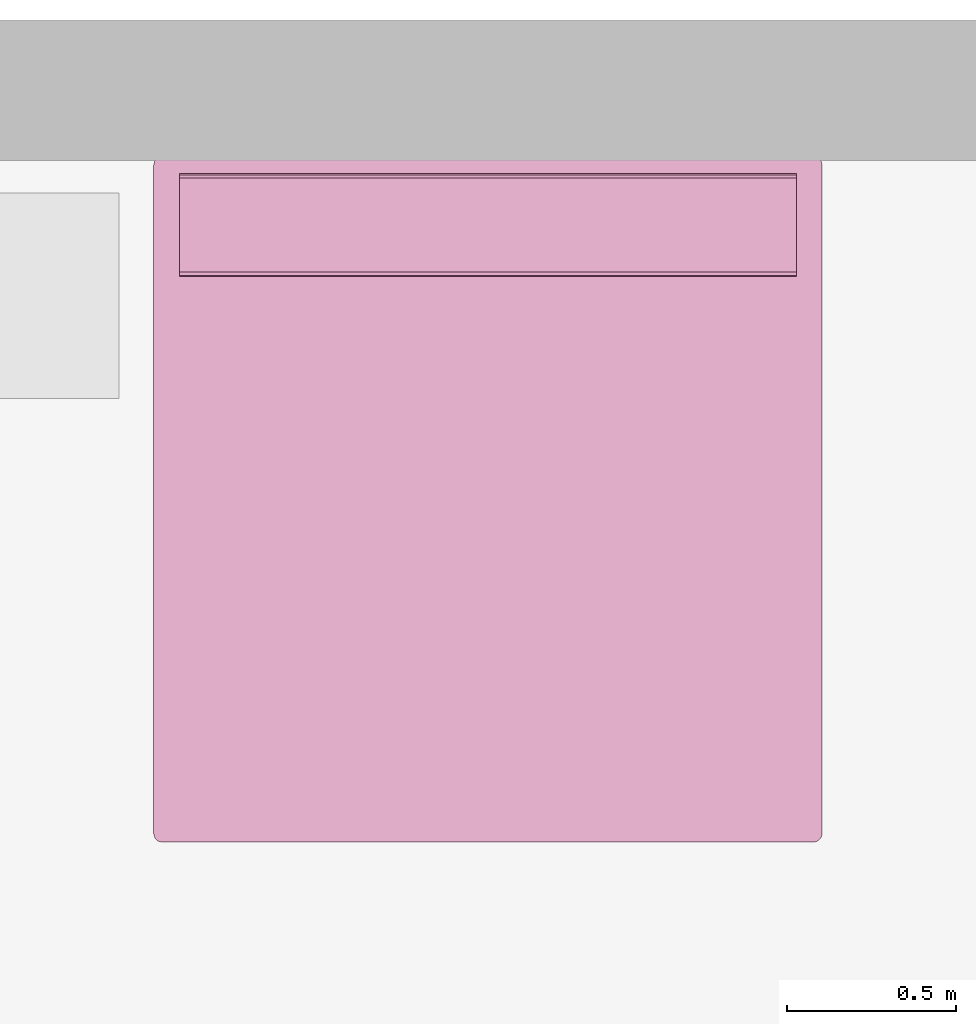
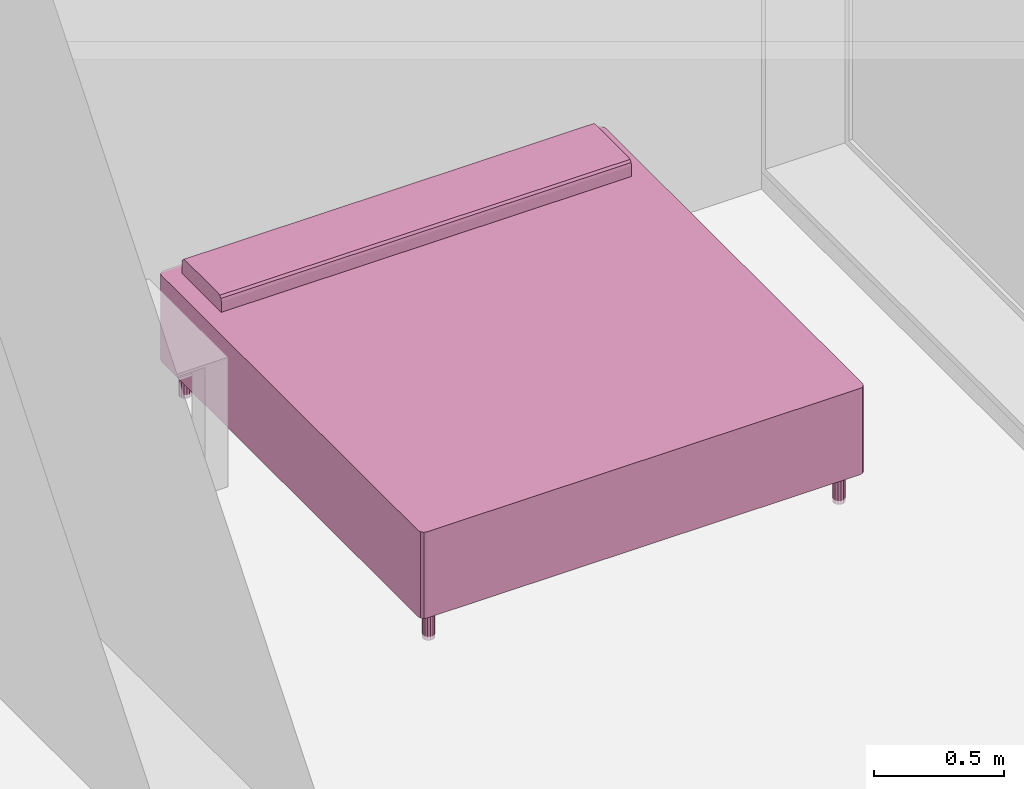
# One storey, part 13 of 16: 1 furnishing.
"""IFC4 building model written with IfcOpenShell, lengths in metres."""

import ifcopenshell
import ifcopenshell.guid

model = None  # the IFC model being written
_history = None  # IfcOwnerHistory: only IFC2X3 demands one
_inside = {}  # id of a spatial element -> (the spatial element, [elements in it])
_under = {}  # id of a project, library or spatial element -> (it, [spatial elements below it])
_declared = {}  # id of a project -> (the project, [libraries it declares])
_typed = {}  # id of a type object -> (the type object, [elements of that type])
_made_of = {}  # id of a material, layer set ... -> (it, [elements and type objects made of it])


def new_model(schema):
    """Start an empty IFC model of exactly this schema.

    Asked for "IFC4X3", IfcOpenShell would pick the latest addendum, in which some entities
    have other attributes; the version numbers below select the first issue.
    IFC2X3 requires an IfcOwnerHistory on every rooted entity: one is made here for all.
    """
    global model, _history
    if schema == "IFC4X3":
        model = ifcopenshell.file(schema_version=(4, 3, 0, 0))
    else:
        model = ifcopenshell.file(schema=schema)
    _inside.clear()
    _under.clear()
    _declared.clear()
    _typed.clear()
    _made_of.clear()
    _history = None
    if model.schema == "IFC2X3":
        org = make("IfcOrganization", Name="unknown")
        user = make(
            "IfcPersonAndOrganization",
            ThePerson=make("IfcPerson", FamilyName="unknown"),
            TheOrganization=org,
        )
        app = make(
            "IfcApplication",
            ApplicationDeveloper=org,
            Version="unknown",
            ApplicationFullName="unknown",
            ApplicationIdentifier="unknown",
        )
        _history = make(
            "IfcOwnerHistory",
            OwningUser=user,
            OwningApplication=app,
            ChangeAction="ADDED",
            CreationDate=0,
        )
    return model


def make(cls, **values):
    """One entity of the class cls with the attributes given. An attribute that is None is left unset."""
    return model.create_entity(
        cls, **{name: value for name, value in values.items() if value is not None}
    )


def entity(cls, *values):
    """Any entity or typed value of the class cls, its attributes in the order of the schema. None: left unset."""
    e = model.create_entity(cls)
    for i, value in enumerate(values):
        if value is not None:
            e[i] = value
    return e


def rooted(cls, **values):
    """An entity with a GlobalId (a new one), such as an element, a storey or a relation."""
    return make(cls, GlobalId=ifcopenshell.guid.new(), OwnerHistory=_history, **values)


def si_unit(unit_type, name, prefix=None):
    """IfcSIUnit, for example si_unit("LENGTHUNIT", "METRE", prefix="MILLI")."""
    return make("IfcSIUnit", UnitType=unit_type, Prefix=prefix, Name=name)


def converted_unit(unit_type, name, factor, base, dimensions=None, offset=None):
    """IfcConversionBasedUnit, such as the inch: factor (a typed value) times the base unit."""
    return make(
        "IfcConversionBasedUnit"
        if offset is None
        else "IfcConversionBasedUnitWithOffset",
        ConversionOffset=offset,
        Dimensions=None
        if dimensions is None
        else entity("IfcDimensionalExponents", *dimensions),
        UnitType=unit_type,
        Name=name,
        ConversionFactor=make(
            "IfcMeasureWithUnit", ValueComponent=factor, UnitComponent=base
        ),
    )


def assignment(units):
    """IfcUnitAssignment: the units of a project."""
    return None if units is None else make("IfcUnitAssignment", Units=units)


def point(xyz):
    """IfcCartesianPoint."""
    return None if xyz is None else make("IfcCartesianPoint", Coordinates=xyz)


def direction(xyz):
    """IfcDirection."""
    return None if xyz is None else make("IfcDirection", DirectionRatios=xyz)


def frame(location, z_axis=None, x_axis=None):
    """IfcAxis2Placement3D, a coordinate frame: its origin and axes. An axis left out is left unset."""
    return make(
        "IfcAxis2Placement3D",
        Location=point(location),
        Axis=direction(z_axis),
        RefDirection=direction(x_axis),
    )


def origin():
    """The frame at (0, 0, 0) with its axes left unset."""
    return frame((0.0, 0.0, 0.0))


def place(relative_to, where):
    """IfcLocalPlacement: puts the frame where relative to a parent placement (None: the world)."""
    return make(
        "IfcLocalPlacement", PlacementRelTo=relative_to, RelativePlacement=where
    )


def context(
    kind, dimensions, precision=None, world=None, true_north=None, identifier=None
):
    """IfcGeometricRepresentationContext, for example the 3D "Model" context."""
    return make(
        "IfcGeometricRepresentationContext",
        ContextIdentifier=identifier,
        ContextType=kind,
        CoordinateSpaceDimension=dimensions,
        Precision=precision,
        WorldCoordinateSystem=world,
        TrueNorth=true_north,
    )


def project(units=None, contexts=None):
    """IfcProject with its units and contexts."""
    return rooted(
        "IfcProject",
        Name="project",
        RepresentationContexts=contexts,
        UnitsInContext=assignment(units),
    )


def spatial(cls, under=None, at=None, **own):
    """A site, building, storey or space (cls), placed at a placement, below another one or the project."""
    s = rooted(cls, ObjectPlacement=at, **own)
    if under is not None:
        _under.setdefault(under.id(), (under, []))[1].append(s)
    return s


def faces_of(points, faces, orient=None, outer=None):
    """IfcFace entities. A face is a list of loops; a loop is a list of indices into points, from 0.

    orient and outer hold one flag for each loop. By default every Orientation is true, the
    first loop of a face is its IfcFaceOuterBound and the others are IfcFaceBound.
    """
    made = []
    for i, loops in enumerate(faces):
        bounds = []
        for j, loop in enumerate(loops):
            is_outer = j == 0 if outer is None else outer[i][j]
            bounds.append(
                make(
                    "IfcFaceOuterBound" if is_outer else "IfcFaceBound",
                    Bound=make("IfcPolyLoop", Polygon=[points[k] for k in loop]),
                    Orientation=True if orient is None else orient[i][j],
                )
            )
        made.append(make("IfcFace", Bounds=bounds))
    return made


def face_set(faces, orient=None, outer=None):
    """The faces of one IfcConnectedFaceSet. surface_model builds it on its shared points."""
    return ("IfcConnectedFaceSet", faces, orient, outer)


def surface_model(cls, points, shells):
    """IfcFaceBasedSurfaceModel or IfcShellBasedSurfaceModel (cls): surfaces that need not close."""
    shared = [point(p) for p in points]
    made = [make(c, CfsFaces=faces_of(shared, fs, o, b)) for c, fs, o, b in shells]
    if cls == "IfcFaceBasedSurfaceModel":
        return make(cls, FbsmFaces=made)
    return make(cls, SbsmBoundary=made)


def shape(context_of_items, identifier, shape_type, items):
    """IfcShapeRepresentation: the items that make up one representation, for example the "Body"."""
    return make(
        "IfcShapeRepresentation",
        ContextOfItems=context_of_items,
        RepresentationIdentifier=identifier,
        RepresentationType=shape_type,
        Items=items,
    )


def source(mapping_origin, context_of_items, identifier, shape_type, items):
    """IfcRepresentationMap: a shape defined once, which mapped items show again and again."""
    return make(
        "IfcRepresentationMap",
        MappingOrigin=mapping_origin,
        MappedRepresentation=shape(context_of_items, identifier, shape_type, items),
    )


def transform(
    local_origin,
    x_axis=None,
    y_axis=None,
    z_axis=None,
    scale=None,
    scale2=None,
    scale3=None,
    uniform=True,
):
    """IfcCartesianTransformationOperator3D, or its non-uniform kind. x_axis, y_axis, z_axis: its Axis1, 2, 3."""
    if uniform:
        return make(
            "IfcCartesianTransformationOperator3D",
            Axis1=direction(x_axis),
            Axis2=direction(y_axis),
            LocalOrigin=point(local_origin),
            Scale=scale,
            Axis3=direction(z_axis),
        )
    return make(
        "IfcCartesianTransformationOperator3DnonUniform",
        Axis1=direction(x_axis),
        Axis2=direction(y_axis),
        LocalOrigin=point(local_origin),
        Scale=scale,
        Axis3=direction(z_axis),
        Scale2=scale2,
        Scale3=scale3,
    )


def mapped(mapping_source, mapping_target):
    """IfcMappedItem: shows the shape of a source again, moved by a transform."""
    return make(
        "IfcMappedItem", MappingSource=mapping_source, MappingTarget=mapping_target
    )


def made_of(thing, what):
    """Note that an element or type object is made of a material, layer set ...; save() writes the relation."""
    if what is not None:
        _made_of.setdefault(what.id(), (what, []))[1].append(thing)
    return thing


def type_object(cls, material=None, **own):
    """A type object (cls), such as IfcWallType, which elements share."""
    return made_of(rooted(cls, **own), material)


def type_shapes(of_type, sources):
    """Give a type object the sources (RepresentationMaps) that its elements show as mapped items."""
    of_type.RepresentationMaps = sources


def element(
    cls,
    number,
    at=None,
    inside=None,
    cuts=None,
    type_object=None,
    material=None,
    context=None,
    identifier="Body",
    shape_type=None,
    held_by="IfcProductDefinitionShape",
    body=None,
    shapes=None,
    **own,
):
    """One element of the class cls, such as IfcWall. Its Tag is "e" and its number.

    at: its placement. inside: the storey or other place that contains it. cuts: it is an
    opening in that element (IfcRelVoidsElement). A single representation is given by context,
    identifier, shape_type and body (its items); several are given by shapes. held_by: the class
    of the entity that holds the representations. save() writes the other relations.
    """
    e = rooted(cls, Tag="e%d" % number, ObjectPlacement=at, **own)
    if body is not None:
        shapes = [shape(context, identifier, shape_type, body)]
    if shapes is not None:
        e.Representation = make(held_by, Representations=shapes)
    if inside is not None:
        _inside.setdefault(inside.id(), (inside, []))[1].append(e)
    if cuts is not None:
        rooted(
            "IfcRelVoidsElement", RelatingBuildingElement=cuts, RelatedOpeningElement=e
        )
    if type_object is not None:
        _typed.setdefault(type_object.id(), (type_object, []))[1].append(e)
    return made_of(e, material)


def aggregate(whole, parts):
    """IfcRelAggregates: a whole, such as a stair, and the parts it consists of."""
    return rooted("IfcRelAggregates", RelatingObject=whole, RelatedObjects=parts)


def save(model, path):
    """Write the relations noted so far, then the file.

    IfcRelAggregates (storeys below a building ...), IfcRelContainedInSpatialStructure (elements
    in a storey), IfcRelDefinesByType, IfcRelAssociatesMaterial and IfcRelDeclares: one each for
    every whole, place, type object, material and project.
    """
    for whole, parts in _under.values():
        aggregate(whole, parts)
    for where, things in _inside.values():
        rooted(
            "IfcRelContainedInSpatialStructure",
            RelatedElements=things,
            RelatingStructure=where,
        )
    for kind, things in _typed.values():
        rooted("IfcRelDefinesByType", RelatedObjects=things, RelatingType=kind)
    for what, things in _made_of.values():
        rooted("IfcRelAssociatesMaterial", RelatedObjects=things, RelatingMaterial=what)
    for by, libraries in _declared.values():
        rooted("IfcRelDeclares", RelatingContext=by, RelatedDefinitions=libraries)
    model.write(path)


model = new_model("IFC4")

# Units and contexts
model_context = context("Model", 3, precision=1e-09, world=origin())
plan_context = context("Plan", 3, precision=1e-09, world=origin())
ifc_project = project(units=[si_unit("LENGTHUNIT", "METRE"), si_unit("AREAUNIT", "SQUARE_METRE"), si_unit("VOLUMEUNIT", "CUBIC_METRE"), converted_unit("PLANEANGLEUNIT", "DEGREE", entity("IfcRatioMeasure", 0.01745329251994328), si_unit("PLANEANGLEUNIT", "RADIAN"), dimensions=[0, 0, 0, 0, 0, 0, 0]), si_unit("TIMEUNIT", "SECOND")], contexts=[model_context, plan_context])

# Site, building, storey, space
site_placement = place(None, origin())
site = spatial("IfcSite", under=ifc_project, at=site_placement, Name="Default", CompositionType="ELEMENT")
building_placement = place(site_placement, origin())
building = spatial("IfcBuilding", under=site, at=building_placement, CompositionType="ELEMENT")
storey_placement = place(building_placement, frame((0.0, 0.0, 3.100000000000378)))
storey = spatial("IfcBuildingStorey", under=building, at=storey_placement, Name="Level 2", CompositionType="ELEMENT", Elevation=3.100000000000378)
space_placement = place(storey_placement, origin())
space = spatial("IfcSpace", under=storey, at=space_placement, Name="A202", CompositionType="ELEMENT", PredefinedType="SPACE")

# Furnishing
furniture_type = type_object("IfcFurnitureType", Name="1981 x 2032mm - King", AssemblyPlace="NOTDEFINED")
shared_shape = source(origin(), model_context, "Body", "SurfaceModel", [
    surface_model("IfcFaceBasedSurfaceModel", [(0.001595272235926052, 0.02699527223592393, 0.3556), (0.001595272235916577, 2.008195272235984, 0.3556), (0.004998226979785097, 2.020895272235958, 0.3556), (0.01429527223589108, 2.030192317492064, 0.3556), (0.02699527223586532, 2.033595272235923, 0.3556), (1.957195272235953, 2.033595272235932, 0.3556), (1.969895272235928, 2.030192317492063, 0.3556), (1.979192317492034, 2.020895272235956, 0.3556), (1.982595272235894, 2.008195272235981, 0.3556), (1.982595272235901, 0.02699527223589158, 0.3556), (1.979192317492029, 0.01429527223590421, 0.3556), (1.969895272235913, 0.004998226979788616, 0.3556), (1.957195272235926, 0.001595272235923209, 0.3556), (0.02699527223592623, 0.00159527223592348, 0.3556), (0.01429527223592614, 0.004998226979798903, 0.3556), (0.00499822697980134, 0.01429527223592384, 0.3556), (0.001595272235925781, 0.02699527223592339, 0.1524), (0.001595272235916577, 2.008195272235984, 0.1524), (0.004998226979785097, 2.020895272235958, 0.1524), (0.01429527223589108, 2.030192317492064, 0.1524), (0.02699527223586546, 2.033595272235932, 0.1524), (1.957195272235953, 2.033595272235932, 0.1524), (1.969895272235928, 2.030192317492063, 0.1524), (1.979192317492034, 2.020895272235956, 0.1524), (1.982595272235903, 2.008195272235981, 0.1524), (1.982595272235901, 0.02699527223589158, 0.1524), (1.979192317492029, 0.01429527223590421, 0.1524), (1.969895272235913, 0.004998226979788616, 0.1524), (1.957195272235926, 0.001595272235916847, 0.1524), (0.02699527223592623, 0.00159527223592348, 0.1524), (0.01429527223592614, 0.004998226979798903, 0.1524), (0.00499822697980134, 0.01429527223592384, 0.1524), (0.003559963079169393, 0.01966291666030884, 0.1524000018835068), (0.003296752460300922, 0.02064526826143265, 0.3555999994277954), (0.009646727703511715, 0.009646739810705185, 0.3555999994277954), (0.009646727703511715, 0.009646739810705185, 0.1524000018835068), (0.02064525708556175, 0.003296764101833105, 0.1524000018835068), (0.01966290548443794, 0.003559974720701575, 0.3555999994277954), (1.964527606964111, 0.003559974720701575, 0.1524000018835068), (1.963545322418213, 0.003296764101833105, 0.3555999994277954), (1.974543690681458, 0.009646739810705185, 0.3555999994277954), (1.974543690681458, 0.009646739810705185, 0.1524000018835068), (1.980893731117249, 0.02064526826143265, 0.1524000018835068), (1.98063051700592, 0.01966291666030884, 0.3555999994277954), (1.980893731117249, 2.014545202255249, 0.3555999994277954), (1.980893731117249, 2.014545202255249, 0.1524000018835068), (1.974543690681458, 2.025543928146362, 0.3555999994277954), (1.974543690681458, 2.025543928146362, 0.1524000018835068), (1.963545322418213, 2.031893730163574, 0.1524000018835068), (1.964527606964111, 2.031630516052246, 0.3555999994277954), (0.01966290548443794, 2.031630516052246, 0.1524000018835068), (0.02064525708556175, 2.031893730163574, 0.3555999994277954), (0.009646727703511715, 2.025543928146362, 0.3555999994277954), (0.009646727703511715, 2.025543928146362, 0.1524000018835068), (0.003296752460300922, 2.014545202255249, 0.1524000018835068), (0.003559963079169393, 2.015527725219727, 0.3555999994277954), (0.07779527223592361, 1.677995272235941, 0.5588000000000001), (0.07779527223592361, 1.677995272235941, 0.6096), (0.07779527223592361, 1.681398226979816, 0.6223), (0.07779527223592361, 1.690695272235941, 0.6315970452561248), (0.07779527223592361, 1.703395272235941, 0.6349999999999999), (0.07779527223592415, 1.957395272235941, 0.6349999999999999), (0.07779527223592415, 1.970095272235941, 0.6315970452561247), (0.07779527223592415, 1.979392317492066, 0.6222999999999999), (0.07779527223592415, 1.982795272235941, 0.6095999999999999), (0.07779527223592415, 1.982795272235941, 0.5588000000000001), (1.906395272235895, 1.677995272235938, 0.5588000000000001), (1.906395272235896, 1.982795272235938, 0.5588000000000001), (1.906395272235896, 1.982795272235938, 0.6095999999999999), (1.906395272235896, 1.979392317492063, 0.6222999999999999), (1.906395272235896, 1.970095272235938, 0.6315970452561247), (1.906395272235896, 1.957395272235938, 0.6349999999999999), (1.906395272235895, 1.703395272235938, 0.6349999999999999), (1.906395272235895, 1.690695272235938, 0.6315970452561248), (1.906395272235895, 1.681398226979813, 0.6223), (1.906395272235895, 1.677995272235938, 0.6096), (0.07779525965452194, 1.679741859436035, 0.6161183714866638), (1.906395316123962, 1.679696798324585, 0.6159499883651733), (0.07779525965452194, 1.686046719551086, 0.6269484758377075), (1.906395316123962, 1.686046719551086, 0.6269484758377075), (1.906395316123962, 1.69704532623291, 0.6332985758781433), (0.07779525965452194, 1.696876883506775, 0.6332534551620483), (1.906395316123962, 1.963913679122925, 0.6332534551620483), (0.07779525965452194, 1.96374523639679, 0.6332985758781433), (0.07779525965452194, 1.974743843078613, 0.6269484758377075), (1.906395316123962, 1.974743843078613, 0.6269484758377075), (1.906395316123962, 1.981093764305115, 0.6159499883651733), (0.07779525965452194, 1.981048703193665, 0.6161183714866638), (0.1031952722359, 1.957395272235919, 0.1524), (0.1006798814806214, 1.946374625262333, 0.1524), (0.09363191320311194, 1.937536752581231, 0.1524), (0.08344730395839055, 1.932632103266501, 0.1524), (0.07214324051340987, 1.932632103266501, 0.1524), (0.06195863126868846, 1.937536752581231, 0.1524), (0.05491066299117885, 1.946374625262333, 0.1524), (0.05239527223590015, 1.957395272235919, 0.1524), (0.05491066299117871, 1.968415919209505, 0.1524), (0.06195863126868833, 1.977253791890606, 0.1524), (0.07214324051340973, 1.982158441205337, 0.1524), (0.08344730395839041, 1.982158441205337, 0.1524), (0.0936319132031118, 1.977253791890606, 0.1524), (0.1006798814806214, 1.968415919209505, 0.1524), (1.931795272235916, 1.957395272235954, 0.1524), (1.929279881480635, 1.946374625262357, 0.1524), (1.922231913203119, 1.937536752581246, 0.1524), (1.912047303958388, 1.932632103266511, 0.1524), (1.900743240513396, 1.932632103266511, 0.1524), (1.890558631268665, 1.937536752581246, 0.1524), (1.883510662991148, 1.946374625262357, 0.1524), (1.880995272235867, 1.957395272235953, 0.1524), (1.883510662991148, 1.96841591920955, 0.1524), (1.890558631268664, 1.97725379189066, 0.1524), (1.900743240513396, 1.982158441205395, 0.1524), (1.912047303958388, 1.982158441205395, 0.1524), (1.922231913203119, 1.97725379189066, 0.1524), (1.929279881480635, 1.96841591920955, 0.1524), (1.931795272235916, 0.0777952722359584, 0.1524), (1.929279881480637, 0.06677462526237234, 0.1524), (1.922231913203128, 0.0579367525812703, 0.1524), (1.912047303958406, 0.05303210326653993, 0.1524), (1.900743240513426, 0.05303210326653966, 0.1524), (1.890558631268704, 0.0579367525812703, 0.1524), (1.883510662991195, 0.06677462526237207, 0.1524), (1.880995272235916, 0.07779527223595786, 0.1524), (1.883510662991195, 0.08881591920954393, 0.1524), (1.890558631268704, 0.09765379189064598, 0.1524), (1.900743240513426, 0.1025584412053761, 0.1524), (1.912047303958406, 0.1025584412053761, 0.1524), (1.922231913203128, 0.09765379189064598, 0.1524), (1.929279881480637, 0.08881591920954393, 0.1524), (0.1031952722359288, 0.0777952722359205, 0.1524), (0.10067988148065, 0.06677462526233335, 0.1524), (0.09363191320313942, 0.05793675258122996, 0.1524), (0.08344730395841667, 0.05303210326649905, 0.1524), (0.07214324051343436, 0.05303210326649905, 0.1524), (0.06195863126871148, 0.05793675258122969, 0.1524), (0.05491066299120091, 0.06677462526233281, 0.1524), (0.05239527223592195, 0.0777952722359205, 0.1524), (0.05491066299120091, 0.08881591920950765, 0.1524), (0.06195863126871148, 0.09765379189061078, 0.1524), (0.07214324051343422, 0.102558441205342, 0.1524), (0.08344730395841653, 0.102558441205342, 0.1524), (0.09363191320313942, 0.09765379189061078, 0.1524), (0.1006798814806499, 0.08881591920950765, 0.1524), (0.1031952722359, 1.957395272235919, 0.0), (0.1006798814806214, 1.946374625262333, 0.0), (0.09363191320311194, 1.937536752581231, 0.0), (0.08344730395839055, 1.932632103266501, 0.0), (0.07214324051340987, 1.932632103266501, 0.0), (0.06195863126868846, 1.937536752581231, 0.0), (0.05491066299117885, 1.946374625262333, 0.0), (0.05239527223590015, 1.957395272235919, 0.0), (0.05491066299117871, 1.968415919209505, 0.0), (0.06195863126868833, 1.977253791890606, 0.0), (0.07214324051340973, 1.982158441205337, 0.0), (0.08344730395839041, 1.982158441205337, 0.0), (0.0936319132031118, 1.977253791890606, 0.0), (0.1006798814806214, 1.968415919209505, 0.0), (1.931795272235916, 1.957395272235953, 0.0), (1.929279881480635, 1.946374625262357, 0.0), (1.922231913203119, 1.937536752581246, 0.0), (1.912047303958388, 1.932632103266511, 0.0), (1.900743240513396, 1.932632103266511, 0.0), (1.890558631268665, 1.937536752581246, 0.0), (1.883510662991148, 1.946374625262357, 0.0), (1.880995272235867, 1.957395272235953, 0.0), (1.883510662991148, 1.96841591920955, 0.0), (1.890558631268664, 1.97725379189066, 0.0), (1.900743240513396, 1.982158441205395, 0.0), (1.912047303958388, 1.982158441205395, 0.0), (1.922231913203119, 1.97725379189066, 0.0), (1.929279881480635, 1.96841591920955, 0.0), (1.931795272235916, 0.07779527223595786, 0.0), (1.929279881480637, 0.06677462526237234, 0.0), (1.922231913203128, 0.0579367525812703, 0.0), (1.912047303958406, 0.05303210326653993, 0.0), (1.900743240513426, 0.05303210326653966, 0.0), (1.890558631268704, 0.0579367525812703, 0.0), (1.883510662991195, 0.06677462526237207, 0.0), (1.880995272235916, 0.07779527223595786, 0.0), (1.883510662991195, 0.08881591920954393, 0.0), (1.890558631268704, 0.09765379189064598, 0.0), (1.900743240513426, 0.1025584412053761, 0.0), (1.912047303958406, 0.1025584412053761, 0.0), (1.922231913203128, 0.09765379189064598, 0.0), (1.929279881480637, 0.08881591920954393, 0.0), (0.1031952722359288, 0.07779527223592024, 0.0), (0.10067988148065, 0.06677462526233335, 0.0), (0.09363191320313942, 0.05793675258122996, 0.0), (0.08344730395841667, 0.05303210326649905, 0.0), (0.07214324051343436, 0.05303210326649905, 0.0), (0.06195863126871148, 0.05793675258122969, 0.0), (0.05491066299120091, 0.06677462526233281, 0.0), (0.05239527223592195, 0.0777952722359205, 0.0), (0.05491066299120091, 0.08881591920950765, 0.0), (0.06195863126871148, 0.09765379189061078, 0.0), (0.07214324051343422, 0.102558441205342, 0.0), (0.08344730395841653, 0.102558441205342, 0.0), (0.09363191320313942, 0.09765379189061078, 0.0), (0.1006798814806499, 0.08881591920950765, 0.0), (0.05365297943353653, 1.951884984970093, 0.1524000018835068), (0.05843466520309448, 1.94195568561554, 0.0), (0.05843466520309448, 1.94195568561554, 0.1524000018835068), (0.1020657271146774, 1.952446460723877, 0.1524000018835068), (0.1019376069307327, 1.951884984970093, 0.0), (0.06705092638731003, 1.935084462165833, 0.0), (0.06705092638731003, 1.935084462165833, 0.1524000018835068), (0.05352479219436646, 1.952446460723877, 0.0), (0.07779525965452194, 1.932632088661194, 0.1524000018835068), (0.07779525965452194, 1.932632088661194, 0.0), (0.08853958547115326, 1.935084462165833, 0.0), (0.08853958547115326, 1.935084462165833, 0.1524000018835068), (0.09715592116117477, 1.94195568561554, 0.0), (0.09715592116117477, 1.94195568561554, 0.1524000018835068), (0.1020657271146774, 1.962344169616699, 0.0), (0.1019376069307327, 1.962905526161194, 0.1524000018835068), (0.09715592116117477, 1.972834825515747, 0.0), (0.09715592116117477, 1.972834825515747, 0.1524000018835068), (0.08853958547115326, 1.979706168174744, 0.1524000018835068), (0.08853958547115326, 1.979706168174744, 0.0), (0.07779525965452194, 1.982158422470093, 0.1524000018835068), (0.07779525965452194, 1.982158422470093, 0.0), (0.06705092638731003, 1.979706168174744, 0.1524000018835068), (0.06705092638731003, 1.979706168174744, 0.0), (0.05352479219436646, 1.962344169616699, 0.1524000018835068), (0.05843466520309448, 1.972834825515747, 0.1524000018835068), (0.05843466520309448, 1.972834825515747, 0.0), (0.05365297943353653, 1.962905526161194, 0.0), (1.882253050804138, 1.951884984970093, 0.1524000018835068), (1.88703465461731, 1.94195568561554, 0.1524000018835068), (1.88703465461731, 1.94195568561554, 0.0), (1.930537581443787, 1.951884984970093, 0.0), (1.930665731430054, 1.952446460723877, 0.1524000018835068), (1.895650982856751, 1.935084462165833, 0.0), (1.895650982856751, 1.935084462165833, 0.1524000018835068), (1.882124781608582, 1.952446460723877, 0.0), (1.906395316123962, 1.932632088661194, 0.1524000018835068), (1.906395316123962, 1.932632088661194, 0.0), (1.917139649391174, 1.935084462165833, 0.0), (1.917139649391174, 1.935084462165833, 0.1524000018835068), (1.925755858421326, 1.94195568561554, 0.0), (1.925755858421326, 1.94195568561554, 0.1524000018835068), (1.930665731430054, 1.962344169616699, 0.0), (1.930537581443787, 1.962905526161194, 0.1524000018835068), (1.925755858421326, 1.972834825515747, 0.1524000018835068), (1.925755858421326, 1.972834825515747, 0.0), (1.917139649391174, 1.979706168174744, 0.1524000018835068), (1.917139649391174, 1.979706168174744, 0.0), (1.906395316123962, 1.982158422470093, 0.1524000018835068), (1.906395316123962, 1.982158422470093, 0.0), (1.895650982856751, 1.979706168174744, 0.1524000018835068), (1.895650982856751, 1.979706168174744, 0.0), (1.882124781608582, 1.962344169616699, 0.1524000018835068), (1.88703465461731, 1.972834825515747, 0.0), (1.88703465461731, 1.972834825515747, 0.1524000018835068), (1.882253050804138, 1.962905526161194, 0.0), (1.882253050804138, 0.07228492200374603, 0.1524000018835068), (1.88703465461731, 0.0623556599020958, 0.0), (1.88703465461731, 0.0623556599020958, 0.1524000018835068), (1.930537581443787, 0.07228492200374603, 0.0), (1.930665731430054, 0.0728464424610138, 0.1524000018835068), (1.895650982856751, 0.05548442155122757, 0.1524000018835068), (1.895650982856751, 0.05548442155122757, 0.0), (1.882124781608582, 0.0728464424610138, 0.0), (1.906395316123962, 0.05303210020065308, 0.0), (1.906395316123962, 0.05303210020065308, 0.1524000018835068), (1.917139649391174, 0.05548442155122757, 0.1524000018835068), (1.917139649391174, 0.05548442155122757, 0.0), (1.925755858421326, 0.0623556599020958, 0.0), (1.925755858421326, 0.0623556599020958, 0.1524000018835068), (1.930665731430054, 0.08274409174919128, 0.0), (1.930537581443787, 0.08330561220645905, 0.1524000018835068), (1.925755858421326, 0.09323488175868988, 0.1524000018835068), (1.925755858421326, 0.09323488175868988, 0.0), (1.917139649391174, 0.1001061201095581, 0.0), (1.917139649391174, 0.1001061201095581, 0.1524000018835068), (1.906395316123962, 0.1025584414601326, 0.0), (1.906395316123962, 0.1025584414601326, 0.1524000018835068), (1.895650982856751, 0.1001061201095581, 0.0), (1.895650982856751, 0.1001061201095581, 0.1524000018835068), (1.882124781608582, 0.08274409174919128, 0.1524000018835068), (1.88703465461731, 0.09323488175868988, 0.0), (1.88703465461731, 0.09323488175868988, 0.1524000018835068), (1.882253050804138, 0.08330561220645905, 0.0), (0.05365297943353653, 0.07228492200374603, 0.1524000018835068), (0.05843466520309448, 0.0623556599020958, 0.1524000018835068), (0.05843466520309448, 0.0623556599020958, 0.0), (0.1020657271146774, 0.0728464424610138, 0.1524000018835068), (0.1019376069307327, 0.07228492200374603, 0.0), (0.06705092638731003, 0.05548442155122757, 0.1524000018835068), (0.06705092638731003, 0.05548442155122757, 0.0), (0.05352479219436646, 0.0728464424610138, 0.0), (0.07779525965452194, 0.05303210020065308, 0.0), (0.07779525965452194, 0.05303210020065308, 0.1524000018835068), (0.08853958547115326, 0.05548442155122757, 0.1524000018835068), (0.08853958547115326, 0.05548442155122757, 0.0), (0.09715592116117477, 0.0623556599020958, 0.1524000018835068), (0.09715592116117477, 0.0623556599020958, 0.0), (0.1020657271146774, 0.08274409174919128, 0.0), (0.1019376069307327, 0.08330561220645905, 0.1524000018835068), (0.09715592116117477, 0.09323488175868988, 0.0), (0.09715592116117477, 0.09323488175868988, 0.1524000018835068), (0.08853958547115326, 0.1001061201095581, 0.0), (0.08853958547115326, 0.1001061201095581, 0.1524000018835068), (0.07779525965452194, 0.1025584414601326, 0.0), (0.07779525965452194, 0.1025584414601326, 0.1524000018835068), (0.06705092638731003, 0.1001061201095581, 0.0), (0.06705092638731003, 0.1001061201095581, 0.1524000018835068), (0.05352479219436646, 0.08274409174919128, 0.1524000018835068), (0.05843466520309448, 0.09323488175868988, 0.1524000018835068), (0.05843466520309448, 0.09323488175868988, 0.0), (0.05365297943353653, 0.08330561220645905, 0.0), (0.02699527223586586, 2.033595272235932, 0.5588000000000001), (1.957195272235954, 2.033595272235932, 0.5588000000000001), (1.969895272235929, 2.030192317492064, 0.5588000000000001), (1.979192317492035, 2.020895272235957, 0.5588000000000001), (1.982595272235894, 2.008195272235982, 0.5588000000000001), (1.982595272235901, 0.02699527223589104, 0.5588000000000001), (1.979192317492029, 0.0142952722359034, 0.5588000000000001), (1.969895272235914, 0.004998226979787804, 0.5588000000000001), (1.957195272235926, 0.001595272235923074, 0.5588000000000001), (0.02699527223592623, 0.001595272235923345, 0.5588000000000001), (0.01429527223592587, 0.004998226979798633, 0.5588000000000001), (0.004998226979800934, 0.01429527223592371, 0.5588000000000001), (0.00159527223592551, 0.0269952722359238, 0.5588000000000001), (0.001595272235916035, 2.008195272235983, 0.5588000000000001), (0.004998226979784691, 2.020895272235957, 0.5588000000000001), (0.01429527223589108, 2.030192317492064, 0.5588000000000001), (0.02699527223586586, 2.033595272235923, 0.3556), (1.957195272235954, 2.033595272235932, 0.3556), (1.969895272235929, 2.030192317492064, 0.3556), (1.979192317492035, 2.020895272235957, 0.3556), (1.982595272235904, 2.008195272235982, 0.3556), (1.982595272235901, 0.02699527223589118, 0.3556), (1.979192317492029, 0.0142952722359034, 0.3556), (1.969895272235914, 0.004998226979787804, 0.3556), (1.957195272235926, 0.001595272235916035, 0.3556), (0.02699527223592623, 0.001595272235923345, 0.3556), (0.01429527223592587, 0.004998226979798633, 0.3556), (0.004998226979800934, 0.01429527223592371, 0.3556), (0.001595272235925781, 0.02699527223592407, 0.3556), (0.001595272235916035, 2.008195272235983, 0.3556), (0.004998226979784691, 2.020895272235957, 0.3556), (0.01429527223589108, 2.030192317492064, 0.3556), (0.01966290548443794, 2.031630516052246, 0.3555999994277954), (0.02064525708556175, 2.031893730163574, 0.5588000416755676), (0.009646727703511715, 2.025543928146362, 0.5588000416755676), (0.009646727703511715, 2.025543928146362, 0.3555999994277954), (0.003296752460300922, 2.014545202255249, 0.3555999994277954), (0.003559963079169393, 2.015527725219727, 0.5588000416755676), (0.003559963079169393, 0.01966291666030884, 0.3555999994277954), (0.003296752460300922, 0.02064526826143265, 0.5588000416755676), (0.009646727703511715, 0.009646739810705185, 0.5588000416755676), (0.009646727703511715, 0.009646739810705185, 0.3555999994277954), (0.02064525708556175, 0.003296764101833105, 0.3555999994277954), (0.01966290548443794, 0.003559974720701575, 0.5588000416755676), (1.964527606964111, 0.003559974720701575, 0.3555999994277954), (1.963545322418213, 0.003296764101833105, 0.5588000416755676), (1.974543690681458, 0.009646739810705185, 0.5588000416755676), (1.974543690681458, 0.009646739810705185, 0.3555999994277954), (1.980893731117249, 0.02064526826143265, 0.3555999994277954), (1.98063051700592, 0.01966291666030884, 0.5588000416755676), (1.98063051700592, 2.015527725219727, 0.3555999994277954), (1.980893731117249, 2.014545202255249, 0.5588000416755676), (1.974543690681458, 2.025543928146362, 0.5588000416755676), (1.974543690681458, 2.025543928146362, 0.3555999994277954), (1.963545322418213, 2.031893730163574, 0.3555999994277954), (1.964527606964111, 2.031630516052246, 0.5588000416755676)], [face_set([[[0, 1, 2, 3, 4, 5, 6, 7, 8, 9, 10, 11, 12, 13, 14, 15]], [[16, 17, 18, 19, 20, 21, 22, 23, 24, 25, 26, 27, 28, 29, 30, 31]], [[15, 32, 31]], [[32, 15, 33]], [[33, 0, 16]], [[34, 35, 30, 14]], [[16, 32, 33]], [[36, 29, 13]], [[37, 30, 36]], [[35, 34, 15, 31]], [[30, 37, 14]], [[13, 37, 36]], [[12, 28, 29, 13]], [[11, 38, 27]], [[38, 11, 39]], [[39, 12, 28]], [[40, 41, 26, 10]], [[28, 38, 39]], [[42, 25, 9]], [[43, 26, 42]], [[41, 40, 11, 27]], [[26, 43, 10]], [[9, 43, 42]], [[8, 9, 25, 24]], [[44, 8, 24, 45]], [[44, 45, 23, 7]], [[46, 47, 22, 6]], [[48, 21, 5]], [[5, 49, 48]], [[22, 49, 6]], [[47, 46, 7, 23]], [[49, 22, 48]], [[4, 5, 21, 20]], [[3, 50, 19]], [[50, 3, 51]], [[51, 4, 20]], [[52, 53, 18, 2]], [[20, 50, 51]], [[54, 17, 1]], [[55, 18, 54]], [[53, 52, 3, 19]], [[18, 55, 2]], [[1, 55, 54]], [[0, 1, 17, 16]]]), face_set([[[56, 57, 58, 59, 60, 61, 62, 63, 64, 65]], [[66, 67, 68, 69, 70, 71, 72, 73, 74, 75]], [[57, 56, 66, 75]], [[74, 76, 77]], [[77, 57, 75]], [[57, 77, 76]], [[78, 79, 73, 59]], [[80, 72, 60]], [[60, 81, 80]], [[73, 81, 59]], [[79, 78, 58, 74]], [[81, 73, 80]], [[74, 58, 76]], [[61, 71, 72, 60]], [[62, 82, 70]], [[82, 62, 83]], [[83, 61, 71]], [[84, 85, 69, 63]], [[71, 82, 83]], [[86, 68, 64]], [[87, 69, 86]], [[85, 84, 62, 70]], [[69, 87, 63]], [[64, 87, 86]], [[65, 67, 68, 64]], [[56, 65, 67, 66]]]), face_set([[[88, 89, 90, 91, 92, 93, 94, 95, 96, 97, 98, 99, 100, 101]], [[102, 103, 104, 105, 106, 107, 108, 109, 110, 111, 112, 113, 114, 115]], [[116, 117, 118, 119, 120, 121, 122, 123, 124, 125, 126, 127, 128, 129]], [[130, 131, 132, 133, 134, 135, 136, 137, 138, 139, 140, 141, 142, 143]], [[144, 145, 146, 147, 148, 149, 150, 151, 152, 153, 154, 155, 156, 157]], [[158, 159, 160, 161, 162, 163, 164, 165, 166, 167, 168, 169, 170, 171]], [[172, 173, 174, 175, 176, 177, 178, 179, 180, 181, 182, 183, 184, 185]], [[186, 187, 188, 189, 190, 191, 192, 193, 194, 195, 196, 197, 198, 199]], [[94, 200, 150]], [[201, 149, 202, 94]], [[203, 204, 89]], [[92, 148, 205, 206]], [[150, 200, 207]], [[200, 95, 207]], [[94, 150, 201]], [[206, 205, 149, 93]], [[149, 93, 202]], [[92, 208, 147, 209]], [[95, 151, 207]], [[90, 146, 210, 211]], [[145, 212, 90, 213]], [[147, 91, 211, 210]], [[213, 89, 145]], [[204, 203, 144]], [[212, 146, 90]], [[89, 204, 145]], [[208, 91, 147]], [[92, 209, 148]], [[203, 88, 144]], [[214, 144, 88]], [[215, 214, 88]], [[100, 156, 216, 217]], [[157, 101, 217, 216]], [[218, 219, 155, 99]], [[214, 215, 157]], [[157, 215, 101]], [[100, 156, 219, 218]], [[220, 221, 154, 98]], [[222, 223, 153, 97]], [[151, 95, 224]], [[225, 226, 152, 96]], [[226, 225, 97, 153]], [[151, 224, 227]], [[98, 154, 223, 222]], [[152, 227, 96]], [[221, 220, 99, 155]], [[96, 227, 224]], [[164, 228, 108]], [[108, 229, 163, 230]], [[103, 231, 232]], [[106, 162, 233, 234]], [[235, 228, 164]], [[235, 109, 228]], [[230, 164, 108]], [[234, 233, 163, 107]], [[229, 107, 163]], [[106, 236, 161, 237]], [[235, 165, 109]], [[104, 160, 238, 239]], [[240, 241, 104, 160]], [[241, 240, 159, 103]], [[161, 105, 239, 238]], [[158, 232, 231]], [[159, 231, 103]], [[236, 105, 161]], [[106, 237, 162]], [[158, 102, 232]], [[102, 158, 242]], [[102, 242, 243]], [[244, 245, 170, 114]], [[245, 244, 115, 171]], [[246, 247, 169, 113]], [[171, 243, 242]], [[115, 243, 171]], [[114, 170, 247, 246]], [[248, 249, 168, 112]], [[250, 251, 167, 111]], [[252, 109, 165]], [[110, 166, 253, 254]], [[167, 111, 254, 253]], [[255, 252, 165]], [[112, 168, 251, 250]], [[110, 255, 166]], [[249, 248, 113, 169]], [[252, 255, 110]], [[178, 256, 122]], [[121, 177, 257, 258]], [[117, 259, 260]], [[261, 262, 176, 120]], [[263, 256, 178]], [[263, 123, 256]], [[178, 122, 258, 257]], [[121, 177, 262, 261]], [[264, 175, 265, 120]], [[263, 179, 123]], [[266, 267, 174, 118]], [[268, 269, 118, 174]], [[269, 268, 173, 117]], [[267, 266, 119, 175]], [[172, 260, 259]], [[173, 259, 117]], [[175, 119, 265]], [[176, 264, 120]], [[172, 116, 260]], [[116, 172, 270]], [[116, 270, 271]], [[272, 273, 184, 128]], [[273, 272, 129, 185]], [[127, 183, 274, 275]], [[185, 271, 270]], [[129, 271, 185]], [[275, 274, 184, 128]], [[126, 182, 276, 277]], [[125, 181, 278, 279]], [[280, 123, 179]], [[124, 180, 281, 282]], [[181, 125, 282, 281]], [[283, 280, 179]], [[279, 278, 182, 126]], [[124, 283, 180]], [[183, 127, 277, 276]], [[280, 283, 124]], [[136, 284, 192]], [[285, 286, 191, 135]], [[287, 288, 131]], [[289, 290, 190, 134]], [[192, 284, 291]], [[284, 137, 291]], [[286, 285, 136, 192]], [[135, 191, 290, 289]], [[292, 189, 293, 134]], [[137, 193, 291]], [[294, 295, 188, 132]], [[188, 132, 296, 297]], [[131, 187, 297, 296]], [[295, 294, 133, 189]], [[288, 287, 186]], [[131, 288, 187]], [[189, 133, 293]], [[190, 292, 134]], [[287, 130, 186]], [[298, 186, 130]], [[299, 298, 130]], [[142, 198, 300, 301]], [[199, 143, 301, 300]], [[141, 197, 302, 303]], [[298, 299, 199]], [[199, 299, 143]], [[303, 302, 198, 142]], [[140, 196, 304, 305]], [[139, 195, 306, 307]], [[193, 137, 308]], [[309, 310, 194, 138]], [[310, 309, 139, 195]], [[193, 308, 311]], [[307, 306, 196, 140]], [[194, 311, 138]], [[197, 141, 305, 304]], [[138, 311, 308]]]), face_set([[[312, 313, 314, 315, 316, 317, 318, 319, 320, 321, 322, 323, 324, 325, 326, 327]], [[328, 329, 330, 331, 332, 333, 334, 335, 336, 337, 338, 339, 340, 341, 342, 343]], [[327, 344, 343]], [[344, 327, 345]], [[345, 312, 328]], [[346, 347, 342, 326]], [[328, 344, 345]], [[348, 341, 325]], [[349, 342, 348]], [[347, 346, 327, 343]], [[342, 349, 326]], [[325, 349, 348]], [[324, 325, 341, 340]], [[323, 350, 339]], [[350, 323, 351]], [[351, 324, 340]], [[352, 353, 338, 322]], [[340, 350, 351]], [[354, 337, 321]], [[355, 338, 354]], [[353, 352, 323, 339]], [[338, 355, 322]], [[321, 355, 354]], [[320, 336, 337, 321]], [[319, 356, 335]], [[356, 319, 357]], [[357, 320, 336]], [[358, 359, 334, 318]], [[336, 356, 357]], [[360, 333, 317]], [[361, 334, 360]], [[359, 358, 319, 335]], [[334, 361, 318]], [[317, 361, 360]], [[316, 317, 333, 332]], [[315, 362, 331]], [[362, 315, 363]], [[363, 316, 332]], [[364, 365, 330, 314]], [[332, 362, 363]], [[366, 329, 313]], [[367, 330, 366]], [[365, 364, 315, 331]], [[330, 367, 314]], [[313, 367, 366]], [[312, 313, 329, 328]]])]),
])
type_shapes(furniture_type, [shared_shape])
furnishing_placement = place(space_placement, frame((5.700404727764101, -2.438095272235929, 0.0)))
element("IfcFurnishingElement", 1, at=furnishing_placement, inside=space, type_object=furniture_type, Name="M_Bed-Standard:1981 x 2032mm - King:1981 x 2032mm - King", ObjectType="1981 x 2032mm - King", context=model_context, shape_type="MappedRepresentation", body=[
    mapped(shared_shape, transform((0.0, 0.0, 0.0), scale=1.0)),
])

save(model, "model.ifc")
